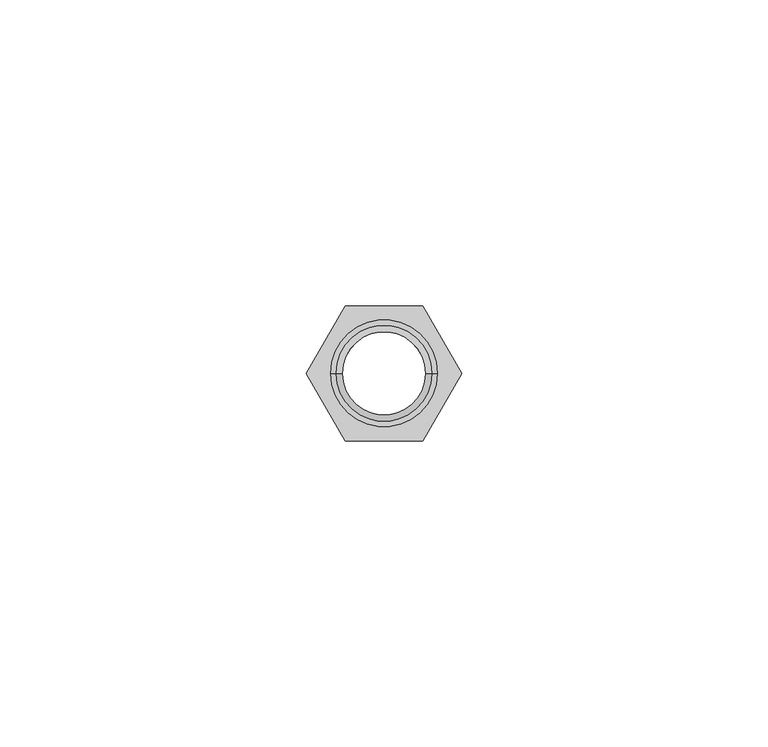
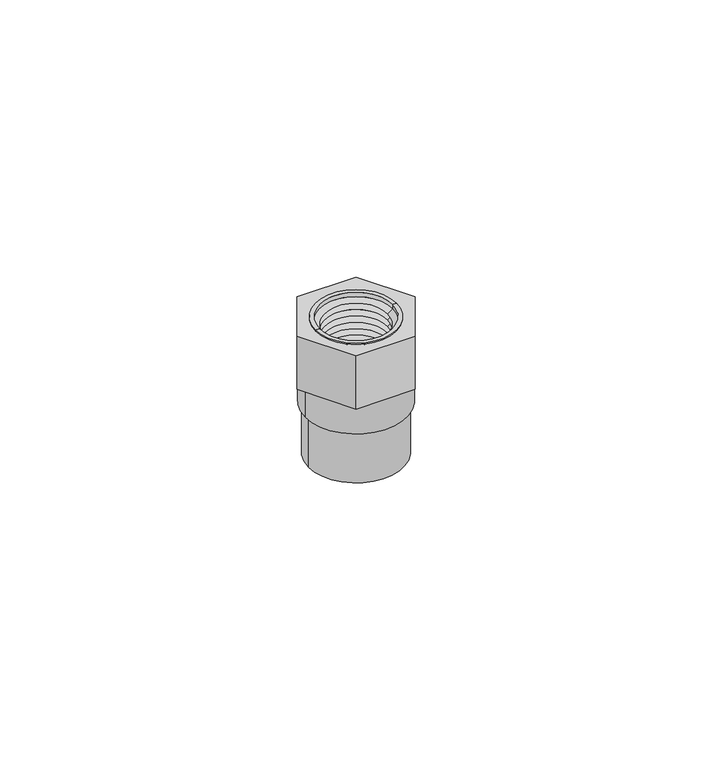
"""IFC4 building model written with IfcOpenShell, lengths in millimetres: valve geometry, Adaptador Hembra_Lubrizol_CPVC_FlowGuard_MX 13mm : Adaptador Hembra_Lubrizol_CPVC_FlowGuard_MX 13mm."""

from ifc_helpers import new_model, si_unit, point, frame, origin, origin_with_axes, origin_2d, place, context, project, spatial, polyline, circle_curve, trimmed, segment, composite_curve, outline, extrude, source, transform, mapped, element, save
from ifc_brep_helpers import plane_surface, cylinder_surface, revolved_surface, advanced_brep


def valve_c794fbe9(model_context):
    return source(origin(), model_context, "Body", "SolidModel", [
        advanced_brep(
        [(8.7401743, 0.0, 30.8), (-8.7401743, 0.0, 30.8), (-7.8893701, 0.0, 30.8), (7.8893701, 0.0, 30.8), (8.7401743, 0.0, 19.6498777), (-8.7401743, 0.0, 19.6498777), (7.8598817, 0.0, 19.6498777), (-7.8598817, 0.0, 19.6498777), (6.8256574, 0.0, 20.3740493), (-6.8256574, 0.0, 20.3740493), (7.8598817, 0.0, 21.0982209), (-7.8598817, 0.0, 21.0982209), (6.8256574, 0.0, 21.8223925), (-6.8256574, 0.0, 21.8223925), (7.8598817, 0.0, 22.5465641), (-7.8598817, 0.0, 22.5465641), (6.8256574, 0.0, 23.2707358), (-6.8256574, 0.0, 23.2707358), (7.8598817, 0.0, 23.9949074), (-7.8598817, 0.0, 23.9949074), (6.8256574, 0.0, 24.719079), (-6.8256574, 0.0, 24.719079), (7.8598817, 0.0, 25.4432506), (-7.8598817, 0.0, 25.4432506), (6.8256574, 0.0, 26.1674223), (-6.8256574, 0.0, 26.1674223), (7.8598817, 0.0, 26.8915939), (-7.8598817, 0.0, 26.8915939), (6.8256574, 0.0, 27.6157655), (-6.8256574, 0.0, 27.6157655), (7.8598817, 0.0, 28.3399371), (-7.8598817, 0.0, 28.3399371), (6.8256574, 0.0, 29.0641088), (-6.8256574, 0.0, 29.0641088), (7.8893701, 0.0, 29.8089284), (-7.8893701, 0.0, 29.8089284)],
        [
            (0, 1, circle_curve(frame((0.0, 0.0, 30.8), z_axis=(0.0, 0.0, 1.0), x_axis=(-1.0, 0.0, 0.0)), 8.7401743)),
            (1, 2),
            (2, 3, circle_curve(frame((0.0, 0.0, 30.8), z_axis=(0.0, 0.0, -1.0), x_axis=(-1.0, 0.0, 0.0)), 7.8893701)),
            (3, 0),
            (1, 0, circle_curve(frame((0.0, 0.0, 30.8), z_axis=(0.0, 0.0, 1.0), x_axis=(-1.0, 0.0, 0.0)), 8.7401743)),
            (3, 2, circle_curve(frame((0.0, 0.0, 30.8), z_axis=(0.0, 0.0, -1.0), x_axis=(-1.0, 0.0, 0.0)), 7.8893701)),
            (4, 5, circle_curve(frame((0.0, 0.0, 19.6498777), z_axis=(0.0, 0.0, 1.0), x_axis=(-1.0, 0.0, 0.0)), 8.7401743)),
            (5, 1),
            (0, 4),
            (5, 4, circle_curve(frame((0.0, 0.0, 19.6498777), z_axis=(0.0, 0.0, 1.0), x_axis=(-1.0, 0.0, 0.0)), 8.7401743)),
            (6, 7, circle_curve(frame((0.0, 0.0, 19.6498777), z_axis=(0.0, 0.0, 1.0), x_axis=(-1.0, 0.0, 0.0)), 7.8598817)),
            (7, 5),
            (4, 6),
            (7, 6, circle_curve(frame((0.0, 0.0, 19.6498777), z_axis=(0.0, 0.0, 1.0), x_axis=(-1.0, 0.0, 0.0)), 7.8598817)),
            (8, 9, circle_curve(frame((0.0, 0.0, 20.3740493), z_axis=(0.0, 0.0, 1.0), x_axis=(-1.0, 0.0, 0.0)), 6.8256574)),
            (9, 7),
            (6, 8),
            (9, 8, circle_curve(frame((0.0, 0.0, 20.3740493), z_axis=(0.0, 0.0, 1.0), x_axis=(-1.0, 0.0, 0.0)), 6.8256574)),
            (10, 11, circle_curve(frame((0.0, 0.0, 21.0982209), z_axis=(0.0, 0.0, 1.0), x_axis=(-1.0, 0.0, 0.0)), 7.8598817)),
            (11, 9),
            (8, 10),
            (11, 10, circle_curve(frame((0.0, 0.0, 21.0982209), z_axis=(0.0, 0.0, 1.0), x_axis=(-1.0, 0.0, 0.0)), 7.8598817)),
            (12, 13, circle_curve(frame((0.0, 0.0, 21.8223925), z_axis=(0.0, 0.0, 1.0), x_axis=(-1.0, 0.0, 0.0)), 6.8256574)),
            (13, 11),
            (10, 12),
            (13, 12, circle_curve(frame((0.0, 0.0, 21.8223925), z_axis=(0.0, 0.0, 1.0), x_axis=(-1.0, 0.0, 0.0)), 6.8256574)),
            (14, 15, circle_curve(frame((0.0, 0.0, 22.5465641), z_axis=(0.0, 0.0, 1.0), x_axis=(-1.0, 0.0, 0.0)), 7.8598817)),
            (15, 13),
            (12, 14),
            (15, 14, circle_curve(frame((0.0, 0.0, 22.5465641), z_axis=(0.0, 0.0, 1.0), x_axis=(-1.0, 0.0, 0.0)), 7.8598817)),
            (16, 17, circle_curve(frame((0.0, 0.0, 23.2707358), z_axis=(0.0, 0.0, 1.0), x_axis=(-1.0, 0.0, 0.0)), 6.8256574)),
            (17, 15),
            (14, 16),
            (17, 16, circle_curve(frame((0.0, 0.0, 23.2707358), z_axis=(0.0, 0.0, 1.0), x_axis=(-1.0, 0.0, 0.0)), 6.8256574)),
            (18, 19, circle_curve(frame((0.0, 0.0, 23.9949074), z_axis=(0.0, 0.0, 1.0), x_axis=(-1.0, 0.0, 0.0)), 7.8598817)),
            (19, 17),
            (16, 18),
            (19, 18, circle_curve(frame((0.0, 0.0, 23.9949074), z_axis=(0.0, 0.0, 1.0), x_axis=(-1.0, 0.0, 0.0)), 7.8598817)),
            (20, 21, circle_curve(frame((0.0, 0.0, 24.719079), z_axis=(0.0, 0.0, 1.0), x_axis=(-1.0, 0.0, 0.0)), 6.8256574)),
            (21, 19),
            (18, 20),
            (21, 20, circle_curve(frame((0.0, 0.0, 24.719079), z_axis=(0.0, 0.0, 1.0), x_axis=(-1.0, 0.0, 0.0)), 6.8256574)),
            (22, 23, circle_curve(frame((0.0, 0.0, 25.4432506), z_axis=(0.0, 0.0, 1.0), x_axis=(-1.0, 0.0, 0.0)), 7.8598817)),
            (23, 21),
            (20, 22),
            (23, 22, circle_curve(frame((0.0, 0.0, 25.4432506), z_axis=(0.0, 0.0, 1.0), x_axis=(-1.0, 0.0, 0.0)), 7.8598817)),
            (24, 25, circle_curve(frame((0.0, 0.0, 26.1674223), z_axis=(0.0, 0.0, 1.0), x_axis=(-1.0, 0.0, 0.0)), 6.8256574)),
            (25, 23),
            (22, 24),
            (25, 24, circle_curve(frame((0.0, 0.0, 26.1674223), z_axis=(0.0, 0.0, 1.0), x_axis=(-1.0, 0.0, 0.0)), 6.8256574)),
            (26, 27, circle_curve(frame((0.0, 0.0, 26.8915939), z_axis=(0.0, 0.0, 1.0), x_axis=(-1.0, 0.0, 0.0)), 7.8598817)),
            (27, 25),
            (24, 26),
            (27, 26, circle_curve(frame((0.0, 0.0, 26.8915939), z_axis=(0.0, 0.0, 1.0), x_axis=(-1.0, 0.0, 0.0)), 7.8598817)),
            (28, 29, circle_curve(frame((0.0, 0.0, 27.6157655), z_axis=(0.0, 0.0, 1.0), x_axis=(-1.0, 0.0, 0.0)), 6.8256574)),
            (29, 27),
            (26, 28),
            (29, 28, circle_curve(frame((0.0, 0.0, 27.6157655), z_axis=(0.0, 0.0, 1.0), x_axis=(-1.0, 0.0, 0.0)), 6.8256574)),
            (30, 31, circle_curve(frame((0.0, 0.0, 28.3399371), z_axis=(0.0, 0.0, 1.0), x_axis=(-1.0, 0.0, 0.0)), 7.8598817)),
            (31, 29),
            (28, 30),
            (31, 30, circle_curve(frame((0.0, 0.0, 28.3399371), z_axis=(0.0, 0.0, 1.0), x_axis=(-1.0, 0.0, 0.0)), 7.8598817)),
            (32, 33, circle_curve(frame((0.0, 0.0, 29.0641088), z_axis=(0.0, 0.0, 1.0), x_axis=(-1.0, 0.0, 0.0)), 6.8256574)),
            (33, 31),
            (30, 32),
            (33, 32, circle_curve(frame((0.0, 0.0, 29.0641088), z_axis=(0.0, 0.0, 1.0), x_axis=(-1.0, 0.0, 0.0)), 6.8256574)),
            (34, 35, circle_curve(frame((0.0, 0.0, 29.8089284), z_axis=(0.0, 0.0, 1.0), x_axis=(-1.0, 0.0, 0.0)), 7.8893701)),
            (35, 33),
            (32, 34),
            (35, 34, circle_curve(frame((0.0, 0.0, 29.8089284), z_axis=(0.0, 0.0, 1.0), x_axis=(-1.0, 0.0, 0.0)), 7.8893701)),
            (2, 35),
            (34, 3),
        ],
        [
            plane_surface(frame((0.0, 0.0, 30.8), z_axis=(0.0, 0.0, 1.0), x_axis=(-1.0, 0.0, 0.0))),
            cylinder_surface(frame((0.0, 0.0, 32.7589883), z_axis=(0.0, 0.0, -1.0), x_axis=(-1.0, 0.0, 0.0)), 8.7401743),
            plane_surface(frame((0.0, 0.0, 19.6498777), z_axis=(0.0, 0.0, -1.0), x_axis=(-1.0, 0.0, 0.0))),
            revolved_surface(polyline([(-7.8598817, 0.0, 19.6498777), (-6.8256574, 0.0, 20.3740493)]), (0.0, 0.0, 32.7589883), (0.0, 0.0, -1.0)),
            revolved_surface(polyline([(-6.8256574, 0.0, 20.3740493), (-7.8598817, 0.0, 21.0982209)]), (0.0, 0.0, 32.7589883), (0.0, 0.0, -1.0)),
            revolved_surface(polyline([(-7.8598817, 0.0, 21.0982209), (-6.8256574, 0.0, 21.8223925)]), (0.0, 0.0, 32.7589883), (0.0, 0.0, -1.0)),
            revolved_surface(polyline([(-6.8256574, 0.0, 21.8223925), (-7.8598817, 0.0, 22.5465641)]), (0.0, 0.0, 32.7589883), (0.0, 0.0, -1.0)),
            revolved_surface(polyline([(-7.8598817, 0.0, 22.5465641), (-6.8256574, 0.0, 23.2707358)]), (0.0, 0.0, 32.7589883), (0.0, 0.0, -1.0)),
            revolved_surface(polyline([(-6.8256574, 0.0, 23.2707358), (-7.8598817, 0.0, 23.9949074)]), (0.0, 0.0, 32.7589883), (0.0, 0.0, -1.0)),
            revolved_surface(polyline([(-7.8598817, 0.0, 23.9949074), (-6.8256574, 0.0, 24.719079)]), (0.0, 0.0, 32.7589883), (0.0, 0.0, -1.0)),
            revolved_surface(polyline([(-6.8256574, 0.0, 24.719079), (-7.8598817, 0.0, 25.4432506)]), (0.0, 0.0, 32.7589883), (0.0, 0.0, -1.0)),
            revolved_surface(polyline([(-7.8598817, 0.0, 25.4432506), (-6.8256574, 0.0, 26.1674223)]), (0.0, 0.0, 32.7589883), (0.0, 0.0, -1.0)),
            revolved_surface(polyline([(-6.8256574, 0.0, 26.1674223), (-7.8598817, 0.0, 26.8915939)]), (0.0, 0.0, 32.7589883), (0.0, 0.0, -1.0)),
            revolved_surface(polyline([(-7.8598817, 0.0, 26.8915939), (-6.8256574, 0.0, 27.6157655)]), (0.0, 0.0, 32.7589883), (0.0, 0.0, -1.0)),
            revolved_surface(polyline([(-6.8256574, 0.0, 27.6157655), (-7.8598817, 0.0, 28.3399371)]), (0.0, 0.0, 32.7589883), (0.0, 0.0, -1.0)),
            revolved_surface(polyline([(-7.8598817, 0.0, 28.3399371), (-6.8256574, 0.0, 29.0641088)]), (0.0, 0.0, 32.7589883), (0.0, 0.0, -1.0)),
            revolved_surface(polyline([(-6.8256574, 0.0, 29.0641088), (-7.8893701, 0.0, 29.8089284)]), (0.0, 0.0, 32.7589883), (0.0, 0.0, -1.0)),
            revolved_surface(polyline([(-7.8893701, 0.0, 29.8089284), (-7.8893701, 0.0, 30.8)]), (0.0, 0.0, 32.7589883), (0.0, 0.0, -1.0)),
        ],
        [
            (0, [[1, 2, 3, 4]]),
            (0, [[5, -4, 6, -2]]),
            (1, [[7, 8, -1, 9]]),
            (1, [[10, -9, -5, -8]]),
            (2, [[11, 12, -7, 13]]),
            (2, [[14, -13, -10, -12]]),
            (3, [[15, 16, -11, 17]]),
            (3, [[18, -17, -14, -16]]),
            (4, [[19, 20, -15, 21]]),
            (4, [[22, -21, -18, -20]]),
            (5, [[23, 24, -19, 25]]),
            (5, [[26, -25, -22, -24]]),
            (6, [[27, 28, -23, 29]]),
            (6, [[30, -29, -26, -28]]),
            (7, [[31, 32, -27, 33]]),
            (7, [[34, -33, -30, -32]]),
            (8, [[35, 36, -31, 37]]),
            (8, [[38, -37, -34, -36]]),
            (9, [[39, 40, -35, 41]]),
            (9, [[42, -41, -38, -40]]),
            (10, [[43, 44, -39, 45]]),
            (10, [[46, -45, -42, -44]]),
            (11, [[47, 48, -43, 49]]),
            (11, [[50, -49, -46, -48]]),
            (12, [[51, 52, -47, 53]]),
            (12, [[54, -53, -50, -52]]),
            (13, [[55, 56, -51, 57]]),
            (13, [[58, -57, -54, -56]]),
            (14, [[59, 60, -55, 61]]),
            (14, [[62, -61, -58, -60]]),
            (15, [[63, 64, -59, 65]]),
            (15, [[66, -65, -62, -64]]),
            (16, [[67, 68, -63, 69]]),
            (16, [[70, -69, -66, -68]]),
            (17, [[-3, 71, -67, 72]]),
            (17, [[-6, -72, -70, -71]]),
        ],
    ),
        extrude(outline(composite_curve([segment(trimmed(circle_curve(origin_2d(), 10.25), [point((-10.25, 0.0))], [point((10.25, 0.0))], False, "CARTESIAN"), True, "CONTINUOUS"), segment(trimmed(circle_curve(origin_2d(), 10.25), [point((10.25, 0.0))], [point((-10.25, 0.0))], False, "CARTESIAN"), True, "CONTINUOUS")], self_intersect=False), holes=[composite_curve([segment(trimmed(circle_curve(origin_2d(), 7.95), [point((-7.95, 0.0))], [point((7.95, 0.0))], True, "CARTESIAN"), True, "CONTINUOUS"), segment(trimmed(circle_curve(origin_2d(), 7.95), [point((7.95, 0.0))], [point((-7.95, 0.0))], True, "CARTESIAN"), True, "CONTINUOUS")], self_intersect=False)]), origin_with_axes(), (0.0, 0.0, 1.0), 11.6498777),
        extrude(outline(polyline([(-6.3719143, -11.0364794), (-12.7438287, 0.0), (-6.3719143, 11.0364794), (6.3719143, 11.0364794), (12.7438287, 0.0), (6.3719143, -11.0364794), (-6.3719143, -11.0364794)]), holes=[composite_curve([segment(trimmed(circle_curve(origin_2d(), 7.95), [point((-7.95, 0.0))], [point((7.95, 0.0))], True, "CARTESIAN"), True, "CONTINUOUS"), segment(trimmed(circle_curve(origin_2d(), 7.95), [point((7.95, 0.0))], [point((-7.95, 0.0))], True, "CARTESIAN"), True, "CONTINUOUS")], self_intersect=False)]), frame((0.0, 0.0, 18.6090637), z_axis=(0.0, 0.0, 1.0), x_axis=(1.0, 0.0, 0.0)), (0.0, 0.0, 1.0), 12.1909363),
        extrude(outline(composite_curve([segment(trimmed(circle_curve(origin_2d(), 10.9321227), [point((-10.9321227, 0.0))], [point((10.9321227, 0.0))], False, "CARTESIAN"), True, "CONTINUOUS"), segment(trimmed(circle_curve(origin_2d(), 10.9321227), [point((10.9321227, 0.0))], [point((-10.9321227, 0.0))], False, "CARTESIAN"), True, "CONTINUOUS")], self_intersect=False), holes=[composite_curve([segment(trimmed(circle_curve(origin_2d(), 7.95), [point((-7.95, 0.0))], [point((7.95, 0.0))], True, "CARTESIAN"), True, "CONTINUOUS"), segment(trimmed(circle_curve(origin_2d(), 7.95), [point((7.95, 0.0))], [point((-7.95, 0.0))], True, "CARTESIAN"), True, "CONTINUOUS")], self_intersect=False)]), frame((0.0, 0.0, 11.6498777), z_axis=(0.0, 0.0, 1.0), x_axis=(1.0, 0.0, 0.0)), (0.0, 0.0, 1.0), 8.0),
    ])


if __name__ == "__main__":
    model = new_model("IFC4")
    model_context = context("Model", 3, world=origin())
    ifc_project = project(units=[si_unit("LENGTHUNIT", "METRE", prefix="MILLI")], contexts=[model_context])
    site = spatial("IfcSite", under=ifc_project)
    building = spatial("IfcBuilding", under=site)
    placement = place(None, origin())
    valve_shape = valve_c794fbe9(model_context)
    element("IfcValve", 1, ObjectType="Adaptador Hembra_Lubrizol_CPVC_FlowGuard_MX 13mm : Adaptador Hembra_Lubrizol_CPVC_FlowGuard_MX 13mm", at=placement, inside=building, context=model_context, shape_type="MappedRepresentation", body=[
        mapped(valve_shape, transform((0.0, 0.0, 0.0), x_axis=(1.0, 0.0, 0.0), y_axis=(0.0, 1.0, 0.0), z_axis=(0.0, 0.0, 1.0))),
    ])
    save(model, "model.ifc")
